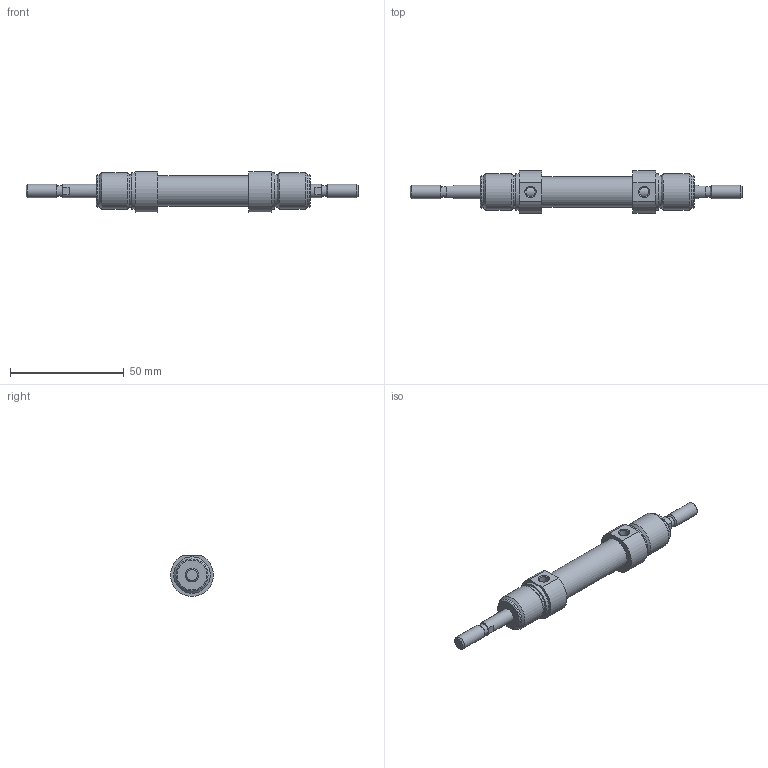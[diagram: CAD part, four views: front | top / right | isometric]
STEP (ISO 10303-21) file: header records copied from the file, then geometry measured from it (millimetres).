
FILE_DESCRIPTION( ( 'STEP AP203' ), '1' );
FILE_NAME( '//expscmdclustefs.cadenas.external/client_exchange/iodir/jobs/output/wkb68360597_no0/STEP/M101-012-0010-M__0__2_03.stp', ' ', ( ' ' ), ( ' ' ), 'PSStep 15.0.47', 'PARTsolutions', ' ' );
FILE_SCHEMA( ( 'CONFIG_CONTROL_DESIGN' ) );
Length unit declared in the file: millimetre
Products named in the file (3): M101-012-0010-M [0]; HI_M101-012-0010-M-[0]-z; HI_M101-012-0010-M-[0]-k
Assembly tree (2 placements, depth 2):
  M101-012-0010-M [0]
    HI_M101-012-0010-M-[0]-z
    HI_M101-012-0010-M-[0]-k
Bounding box: 146 x 18.73 x 17.86 mm (x, y, z)
Volume: 17958.9 mm3; surface area: 10751.6 mm2
Topology: 2 solids, 2 shells, 65 faces, 129 edges, 80 vertices
Faces by surface type: plane 26, cylinder 23, cone 14, torus 2
Full cylindrical faces by diameter (mm): 4.134 x2, 4.773 x2, 6 x6, 12 x2, 13.3 x1, 14.16 x4, 16 x4
Entity records: 1670 total; most frequent: CARTESIAN_POINT 324, DIRECTION 280, ORIENTED_EDGE 184, AXIS2_PLACEMENT_3D 128, EDGE_LOOP 116, EDGE_CURVE 92, FACE_OUTER_BOUND 88, VERTEX_POINT 76
